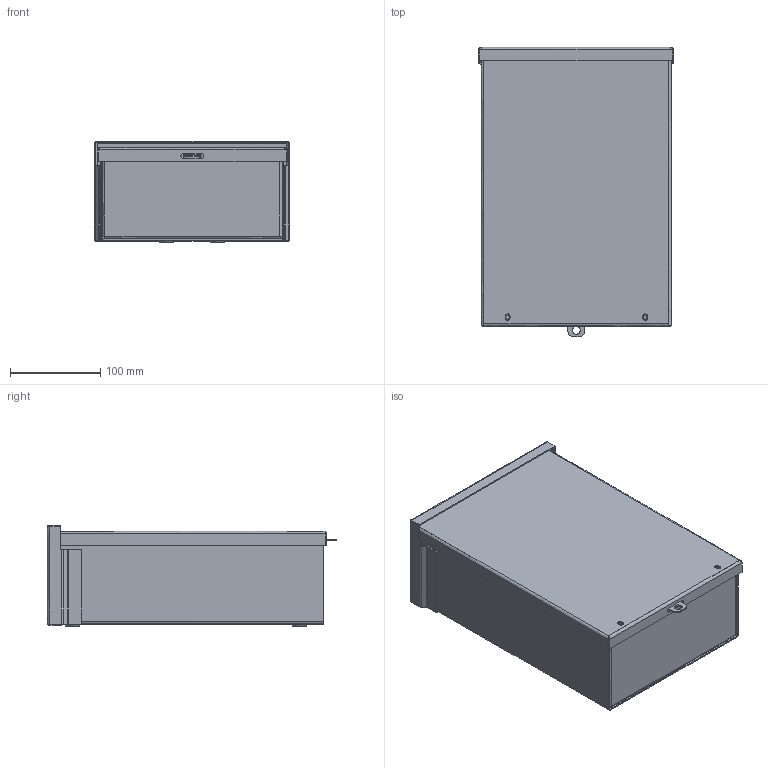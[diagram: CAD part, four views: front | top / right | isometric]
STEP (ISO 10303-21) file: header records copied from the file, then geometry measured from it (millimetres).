
FILE_DESCRIPTION((''),'2;1');
FILE_NAME('D:\scratch\ideas\a12r84nk.stp','2006-12-19T10:25:32',( 'User'),('SDRC'),'I-DEAS Master Series 9','UNIX','Yes');
FILE_SCHEMA(('AUTOMOTIVE_DESIGN { 1 0 10303 214 0 1 1 1 }'));
Length unit declared in the file: inch
Products named in the file (7): 13486; 3rsc_wmt_body_12x8x4_nk; 3rsc_top_8x4; 3rsc_bottom_8x4_nk; 3rsc_body_12x8x4; 3rsc_cover_12x8; 78124001
Assembly tree (6 placements, depth 3):
  13486
    3rsc_wmt_body_12x8x4_nk
      3rsc_top_8x4
      3rsc_bottom_8x4_nk
      3rsc_body_12x8x4
    3rsc_cover_12x8
    78124001
Bounding box: 215.9 x 320.75 x 113.03 mm (x, y, z)
Volume: 374563 mm3; surface area: 542635 mm2
Topology: 5 solids, 5 shells, 239 faces, 615 edges, 392 vertices
Faces by surface type: bspline 239
Entity records: 7574 total; most frequent: CARTESIAN_POINT 3603, ORIENTED_EDGE 1230, EDGE_CURVE 615, VERTEX_POINT 392, QUASI_UNIFORM_CURVE 308, EDGE_LOOP 273, FACE_OUTER_BOUND 239, ADVANCED_FACE 239
